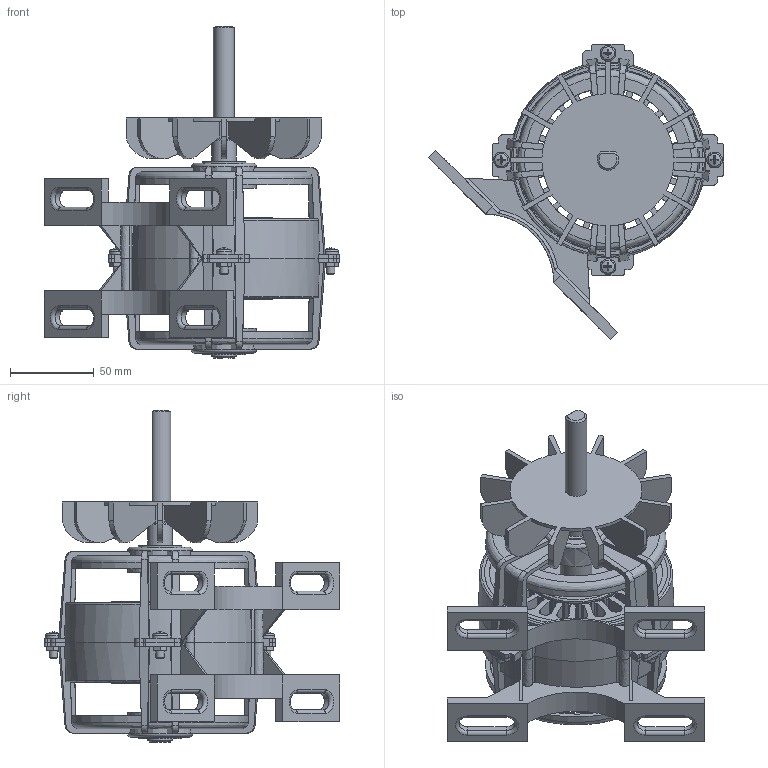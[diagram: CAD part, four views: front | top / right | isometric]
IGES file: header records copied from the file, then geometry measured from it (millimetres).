
Global section: file name: MOTOR 1X4 ML_Substitute_1; native system: Autodesk Inventor 2015; preprocessor: unknown; author: User; date: 20180209.182649; units: inch
Bounding box: 176.45 x 176.45 x 198.5 mm (x, y, z)
Volume: 583095.2 mm3; surface area: 237170.2 mm2
Topology: 1 solids, 12 shells, 1225 faces, 3476 edges, 2271 vertices
Faces by surface type: bspline 1225
